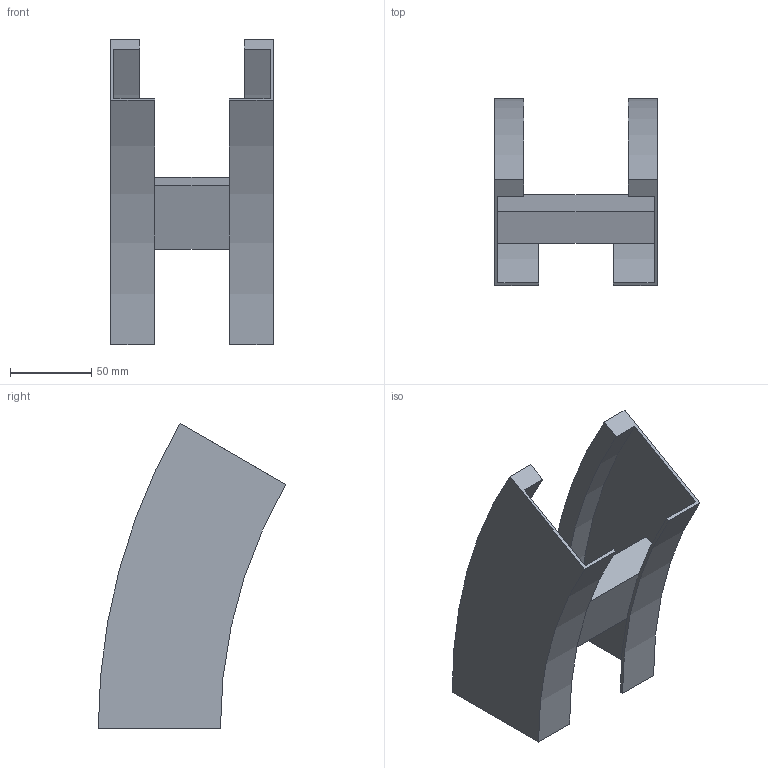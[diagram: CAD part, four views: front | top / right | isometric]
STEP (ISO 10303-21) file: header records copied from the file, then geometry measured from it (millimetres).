
FILE_DESCRIPTION (( 'STEP AP214' ), '1' );
FILE_NAME ('B2_35B3C100.step', '2025-02-21T14:50:16', ( '' ), ( '' ), 'SwSTEP 2.0', 'SolidWorks 2023', '' );
FILE_SCHEMA (( 'AUTOMOTIVE_DESIGN' ));
Length unit declared in the file: millimetre
Products named in the file (3): B2_35B3C100; TRAVERSINO_100; B2_LONGH.DISCESA_30°_H75_R300
Assembly tree (3 placements, depth 2):
  B2_35B3C100
    B2_LONGH.DISCESA_30°_H75_R300  x2
    TRAVERSINO_100
Bounding box: 100 x 115.19 x 187.5 mm (x, y, z)
Volume: 220726.6 mm3; surface area: 97357.7 mm2
Topology: 3 solids, 3 shells, 26 faces, 60 edges, 40 vertices
Faces by surface type: plane 18, cylinder 8
Entity records: 544 total; most frequent: DIRECTION 88, CARTESIAN_POINT 82, ORIENTED_EDGE 72, EDGE_CURVE 36, AXIS2_PLACEMENT_3D 30, LINE 28, VECTOR 28, VERTEX_POINT 24
